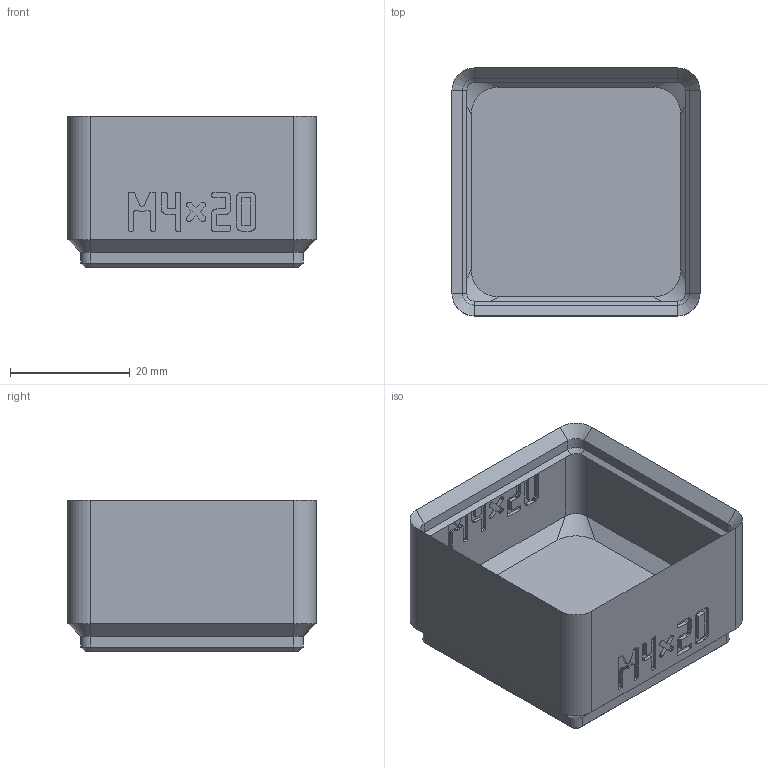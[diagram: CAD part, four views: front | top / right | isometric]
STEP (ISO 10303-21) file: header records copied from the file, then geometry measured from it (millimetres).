
FILE_DESCRIPTION(('Open CASCADE Model'),'2;1');
FILE_NAME('bin_m4x20','2026-11-16T17:22:16',('Author'),('Open CASCADE'), 'Open CASCADE STEP processor 8.0','build123d','Unknown');
FILE_SCHEMA(('AUTOMOTIVE_DESIGN { 1 0 10303 214 1 1 1 1 }'));
Products named in the file (1): bin_m4x20
Bounding box: 41.5 x 41.5 x 25.4 mm (x, y, z)
Volume: 12267.9 mm3; surface area: 10552.1 mm2
Topology: 1 solids, 1 shells, 1041 faces, 2998 edges, 1980 vertices
Faces by surface type: plane 993, cylinder 24, cone 16, bspline 8
Full cylindrical faces by diameter (mm): 3.2 x4, 6.5 x4
Entity records: 70396 total; most frequent: CARTESIAN_POINT 14160, DIRECTION 9078, LINE 6862, VECTOR 6862, ORIENTED_EDGE 5996, PCURVE 5996, DEFINITIONAL_REPRESENTATION 5996, EDGE_CURVE 2998
